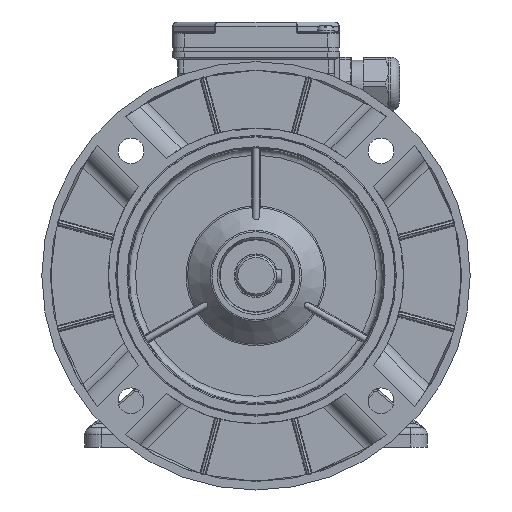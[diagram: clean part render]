
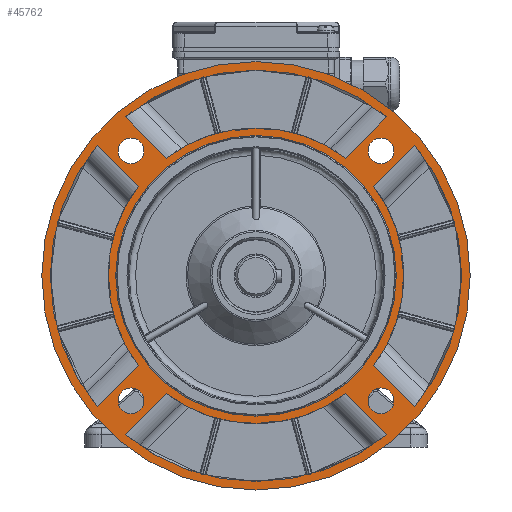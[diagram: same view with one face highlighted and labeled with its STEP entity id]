
A CAD part, left-side view. The second image highlights one B-rep face of the part: STEP entity #45762.
In plain terms, the highlighted planar face has unit normal (-1, 0, 0).
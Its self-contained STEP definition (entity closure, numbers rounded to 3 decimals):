
#4524=LINE('',#92508,#8147);
#4525=LINE('',#92519,#8148);
#4526=LINE('',#92542,#8149);
#4527=LINE('',#92553,#8150);
#4528=LINE('',#92591,#8151);
#4529=LINE('',#92602,#8152);
#4530=LINE('',#92625,#8153);
#4531=LINE('',#92636,#8154);
#8147=VECTOR('',#78021,1000.);
#8148=VECTOR('',#78028,1000.);
#8149=VECTOR('',#78035,1000.);
#8150=VECTOR('',#78042,1000.);
#8151=VECTOR('',#78069,1000.);
#8152=VECTOR('',#78076,1000.);
#8153=VECTOR('',#78083,1000.);
#8154=VECTOR('',#78090,1000.);
#9787=PLANE('',#67401);
#20442=ORIENTED_EDGE('',*,*,#29328,.T.);
#20443=ORIENTED_EDGE('',*,*,#29326,.T.);
#20444=ORIENTED_EDGE('',*,*,#29325,.T.);
#20445=ORIENTED_EDGE('',*,*,#29322,.T.);
#20446=ORIENTED_EDGE('',*,*,#29320,.T.);
#20447=ORIENTED_EDGE('',*,*,#29318,.T.);
#20448=ORIENTED_EDGE('',*,*,#29317,.T.);
#20449=ORIENTED_EDGE('',*,*,#29314,.T.);
#20450=ORIENTED_EDGE('',*,*,#29312,.F.);
#20451=ORIENTED_EDGE('',*,*,#29311,.F.);
#20452=ORIENTED_EDGE('',*,*,#29310,.F.);
#20453=ORIENTED_EDGE('',*,*,#29309,.F.);
#20454=ORIENTED_EDGE('',*,*,#29379,.T.);
#20455=ORIENTED_EDGE('',*,*,#29308,.T.);
#20456=ORIENTED_EDGE('',*,*,#29307,.T.);
#20457=ORIENTED_EDGE('',*,*,#29305,.T.);
#20458=ORIENTED_EDGE('',*,*,#29304,.T.);
#20459=ORIENTED_EDGE('',*,*,#29301,.T.);
#20460=ORIENTED_EDGE('',*,*,#29299,.T.);
#20461=ORIENTED_EDGE('',*,*,#29297,.T.);
#20462=ORIENTED_EDGE('',*,*,#29296,.T.);
#20463=ORIENTED_EDGE('',*,*,#29293,.T.);
#29293=EDGE_CURVE('',#34509,#34508,#37309,.T.);
#29296=EDGE_CURVE('',#34510,#34509,#4524,.T.);
#29297=EDGE_CURVE('',#34511,#34510,#37310,.T.);
#29299=EDGE_CURVE('',#34508,#34511,#4525,.T.);
#29301=EDGE_CURVE('',#34513,#34512,#37311,.T.);
#29304=EDGE_CURVE('',#34514,#34513,#4526,.T.);
#29305=EDGE_CURVE('',#34515,#34514,#37312,.T.);
#29307=EDGE_CURVE('',#34512,#34515,#4527,.T.);
#29308=EDGE_CURVE('',#34516,#34516,#37313,.T.);
#29309=EDGE_CURVE('',#34517,#34517,#37314,.T.);
#29310=EDGE_CURVE('',#34518,#34518,#37315,.T.);
#29311=EDGE_CURVE('',#34519,#34519,#37316,.T.);
#29312=EDGE_CURVE('',#34520,#34520,#37317,.T.);
#29314=EDGE_CURVE('',#34522,#34521,#37318,.T.);
#29317=EDGE_CURVE('',#34523,#34522,#4528,.T.);
#29318=EDGE_CURVE('',#34524,#34523,#37319,.T.);
#29320=EDGE_CURVE('',#34521,#34524,#4529,.T.);
#29322=EDGE_CURVE('',#34526,#34525,#37320,.T.);
#29325=EDGE_CURVE('',#34527,#34526,#4530,.T.);
#29326=EDGE_CURVE('',#34528,#34527,#37321,.T.);
#29328=EDGE_CURVE('',#34525,#34528,#4531,.T.);
#29379=EDGE_CURVE('',#34563,#34563,#37332,.F.);
#34508=VERTEX_POINT('',#92492);
#34509=VERTEX_POINT('',#92494);
#34510=VERTEX_POINT('',#92507);
#34511=VERTEX_POINT('',#92511);
#34512=VERTEX_POINT('',#92526);
#34513=VERTEX_POINT('',#92528);
#34514=VERTEX_POINT('',#92541);
#34515=VERTEX_POINT('',#92545);
#34516=VERTEX_POINT('',#92556);
#34517=VERTEX_POINT('',#92559);
#34518=VERTEX_POINT('',#92562);
#34519=VERTEX_POINT('',#92565);
#34520=VERTEX_POINT('',#92568);
#34521=VERTEX_POINT('',#92575);
#34522=VERTEX_POINT('',#92577);
#34523=VERTEX_POINT('',#92590);
#34524=VERTEX_POINT('',#92594);
#34525=VERTEX_POINT('',#92609);
#34526=VERTEX_POINT('',#92611);
#34527=VERTEX_POINT('',#92624);
#34528=VERTEX_POINT('',#92628);
#34563=VERTEX_POINT('',#92829);
#37309=CIRCLE('',#67340,96.);
#37310=CIRCLE('',#67343,69.);
#37311=CIRCLE('',#67346,96.);
#37312=CIRCLE('',#67349,69.);
#37313=CIRCLE('',#67352,100.);
#37314=CIRCLE('',#67354,6.);
#37315=CIRCLE('',#67356,6.);
#37316=CIRCLE('',#67358,6.);
#37317=CIRCLE('',#67360,6.);
#37318=CIRCLE('',#67362,96.);
#37319=CIRCLE('',#67365,69.);
#37320=CIRCLE('',#67368,96.);
#37321=CIRCLE('',#67371,69.);
#37332=CIRCLE('',#67402,65.5);
#39973=EDGE_LOOP('',(#20442,#20443,#20444,#20445));
#39974=EDGE_LOOP('',(#20446,#20447,#20448,#20449));
#39975=EDGE_LOOP('',(#20450));
#39976=EDGE_LOOP('',(#20451));
#39977=EDGE_LOOP('',(#20452));
#39978=EDGE_LOOP('',(#20453));
#39979=EDGE_LOOP('',(#20454));
#39980=EDGE_LOOP('',(#20455));
#39981=EDGE_LOOP('',(#20456,#20457,#20458,#20459));
#39982=EDGE_LOOP('',(#20460,#20461,#20462,#20463));
#43018=FACE_BOUND('',#39973,.T.);
#43019=FACE_BOUND('',#39974,.T.);
#43020=FACE_BOUND('',#39975,.T.);
#43021=FACE_BOUND('',#39976,.T.);
#43022=FACE_BOUND('',#39977,.T.);
#43023=FACE_BOUND('',#39978,.T.);
#43024=FACE_BOUND('',#39979,.T.);
#43025=FACE_BOUND('',#39980,.T.);
#43026=FACE_BOUND('',#39981,.T.);
#43027=FACE_BOUND('',#39982,.T.);
#45762=ADVANCED_FACE('',(#43018,#43019,#43020,#43021,#43022,#43023,#43024,
#43025,#43026,#43027),#9787,.T.);
#67340=AXIS2_PLACEMENT_3D('',#92493,#78017,#78018);
#67343=AXIS2_PLACEMENT_3D('',#92510,#78024,#78025);
#67346=AXIS2_PLACEMENT_3D('',#92527,#78031,#78032);
#67349=AXIS2_PLACEMENT_3D('',#92544,#78038,#78039);
#67352=AXIS2_PLACEMENT_3D('',#92555,#78045,#78046);
#67354=AXIS2_PLACEMENT_3D('',#92558,#78049,#78050);
#67356=AXIS2_PLACEMENT_3D('',#92561,#78053,#78054);
#67358=AXIS2_PLACEMENT_3D('',#92564,#78057,#78058);
#67360=AXIS2_PLACEMENT_3D('',#92567,#78061,#78062);
#67362=AXIS2_PLACEMENT_3D('',#92576,#78065,#78066);
#67365=AXIS2_PLACEMENT_3D('',#92593,#78072,#78073);
#67368=AXIS2_PLACEMENT_3D('',#92610,#78079,#78080);
#67371=AXIS2_PLACEMENT_3D('',#92627,#78086,#78087);
#67401=AXIS2_PLACEMENT_3D('',#92827,#78163,#78164);
#67402=AXIS2_PLACEMENT_3D('',#92828,#78165,#78166);
#78017=DIRECTION('',(1.,0.,0.));
#78018=DIRECTION('',(0.,0.,-1.));
#78021=DIRECTION('',(0.,0.707,0.707));
#78024=DIRECTION('',(-1.,0.,0.));
#78025=DIRECTION('',(0.,0.,-1.));
#78028=DIRECTION('',(0.,0.707,-0.707));
#78031=DIRECTION('',(1.,0.,0.));
#78032=DIRECTION('',(0.,0.,1.));
#78035=DIRECTION('',(0.,-0.707,-0.707));
#78038=DIRECTION('',(-1.,0.,0.));
#78039=DIRECTION('',(0.,0.,1.));
#78042=DIRECTION('',(0.,-0.707,0.707));
#78045=DIRECTION('',(-1.,0.,0.));
#78046=DIRECTION('',(0.,0.,-1.));
#78049=DIRECTION('',(-1.,0.,0.));
#78050=DIRECTION('',(0.,-1.,0.));
#78053=DIRECTION('',(-1.,0.,0.));
#78054=DIRECTION('',(0.,-1.,0.));
#78057=DIRECTION('',(-1.,0.,0.));
#78058=DIRECTION('',(0.,-1.,0.));
#78061=DIRECTION('',(-1.,0.,0.));
#78062=DIRECTION('',(0.,-1.,0.));
#78065=DIRECTION('',(1.,0.,0.));
#78066=DIRECTION('',(0.,1.,0.));
#78069=DIRECTION('',(0.,-0.707,0.707));
#78072=DIRECTION('',(-1.,0.,0.));
#78073=DIRECTION('',(0.,1.,0.));
#78076=DIRECTION('',(0.,0.707,0.707));
#78079=DIRECTION('',(1.,0.,0.));
#78080=DIRECTION('',(0.,-1.,0.));
#78083=DIRECTION('',(0.,0.707,-0.707));
#78086=DIRECTION('',(-1.,0.,0.));
#78087=DIRECTION('',(0.,-1.,0.));
#78090=DIRECTION('',(0.,-0.707,-0.707));
#78163=DIRECTION('',(-1.,0.,0.));
#78164=DIRECTION('',(0.,0.,-1.));
#78165=DIRECTION('',(-1.,0.,0.));
#78166=DIRECTION('',(0.,0.,-1.));
#92492=CARTESIAN_POINT('',(-44.8,-60.96,74.161));
#92493=CARTESIAN_POINT('',(-44.8,0.,0.));
#92494=CARTESIAN_POINT('',(-44.8,60.96,74.161));
#92507=CARTESIAN_POINT('',(-44.8,41.741,54.943));
#92508=CARTESIAN_POINT('',(-44.8,60.009,73.211));
#92510=CARTESIAN_POINT('',(-44.8,0.,0.));
#92511=CARTESIAN_POINT('',(-44.8,-41.741,54.943));
#92519=CARTESIAN_POINT('',(-44.8,-40.403,53.605));
#92526=CARTESIAN_POINT('',(-44.8,60.96,-74.161));
#92527=CARTESIAN_POINT('',(-44.8,0.,0.));
#92528=CARTESIAN_POINT('',(-44.8,-60.96,-74.161));
#92541=CARTESIAN_POINT('',(-44.8,-41.741,-54.943));
#92542=CARTESIAN_POINT('',(-44.8,-60.009,-73.211));
#92544=CARTESIAN_POINT('',(-44.8,0.,0.));
#92545=CARTESIAN_POINT('',(-44.8,41.741,-54.943));
#92553=CARTESIAN_POINT('',(-44.8,40.403,-53.605));
#92555=CARTESIAN_POINT('',(-44.8,0.,0.));
#92556=CARTESIAN_POINT('',(-44.8,0.,-100.));
#92558=CARTESIAN_POINT('',(-44.8,58.336,58.336));
#92559=CARTESIAN_POINT('',(-44.8,52.336,58.336));
#92561=CARTESIAN_POINT('',(-44.8,-58.336,58.336));
#92562=CARTESIAN_POINT('',(-44.8,-64.336,58.336));
#92564=CARTESIAN_POINT('',(-44.8,-58.336,-58.336));
#92565=CARTESIAN_POINT('',(-44.8,-64.336,-58.336));
#92567=CARTESIAN_POINT('',(-44.8,58.336,-58.336));
#92568=CARTESIAN_POINT('',(-44.8,52.336,-58.336));
#92575=CARTESIAN_POINT('',(-44.8,-74.161,-60.96));
#92576=CARTESIAN_POINT('',(-44.8,0.,0.));
#92577=CARTESIAN_POINT('',(-44.8,-74.161,60.96));
#92590=CARTESIAN_POINT('',(-44.8,-54.943,41.741));
#92591=CARTESIAN_POINT('',(-44.8,-73.211,60.009));
#92593=CARTESIAN_POINT('',(-44.8,0.,0.));
#92594=CARTESIAN_POINT('',(-44.8,-54.943,-41.741));
#92602=CARTESIAN_POINT('',(-44.8,-53.605,-40.403));
#92609=CARTESIAN_POINT('',(-44.8,74.161,60.96));
#92610=CARTESIAN_POINT('',(-44.8,0.,0.));
#92611=CARTESIAN_POINT('',(-44.8,74.161,-60.96));
#92624=CARTESIAN_POINT('',(-44.8,54.943,-41.741));
#92625=CARTESIAN_POINT('',(-44.8,73.211,-60.009));
#92627=CARTESIAN_POINT('',(-44.8,0.,0.));
#92628=CARTESIAN_POINT('',(-44.8,54.943,41.741));
#92636=CARTESIAN_POINT('',(-44.8,53.605,40.403));
#92827=CARTESIAN_POINT('',(-44.8,0.,-65.));
#92828=CARTESIAN_POINT('',(-44.8,0.,0.));
#92829=CARTESIAN_POINT('',(-44.8,0.,-65.5));
